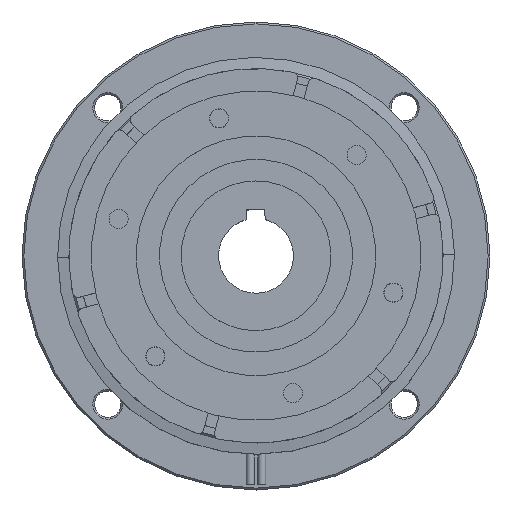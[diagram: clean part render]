
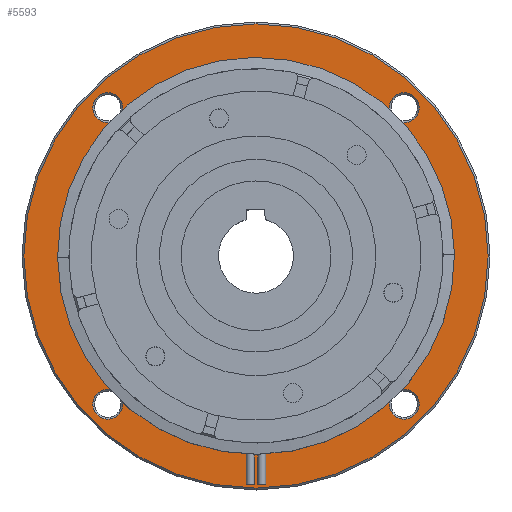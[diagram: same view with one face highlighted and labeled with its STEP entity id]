
A CAD part, top view. The second image highlights one B-rep face of the part: STEP entity #5593.
In plain terms, the highlighted planar face has unit normal (0, 0, 1).
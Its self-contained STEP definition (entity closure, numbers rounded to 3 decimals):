
#36 = VERTEX_POINT ( 'NONE', #1996 ) ;
#114 = FACE_BOUND ( 'NONE', #703, .T. ) ;
#181 = DIRECTION ( 'NONE',  ( 0., 0., -1. ) ) ;
#198 = ORIENTED_EDGE ( 'NONE', *, *, #4758, .T. ) ;
#323 = CARTESIAN_POINT ( 'NONE',  ( -39.598, -35.598, 3. ) ) ;
#590 = DIRECTION ( 'NONE',  ( 0., 0., -1. ) ) ;
#650 = CARTESIAN_POINT ( 'NONE',  ( 0., 0., 3. ) ) ;
#703 = EDGE_LOOP ( 'NONE', ( #6712, #7078 ) ) ;
#772 = AXIS2_PLACEMENT_3D ( 'NONE', #6168, #2530, #6754 ) ;
#837 = CARTESIAN_POINT ( 'NONE',  ( -39.598, 35.598, 3. ) ) ;
#942 = DIRECTION ( 'NONE',  ( 0., 0., -1. ) ) ;
#1023 = CARTESIAN_POINT ( 'NONE',  ( 62.5, 0., 3. ) ) ;
#1059 = DIRECTION ( 'NONE',  ( 0., 0., 1. ) ) ;
#1090 = EDGE_CURVE ( 'NONE', #7325, #5019, #3270, .T. ) ;
#1149 = VERTEX_POINT ( 'NONE', #4592 ) ;
#1166 = AXIS2_PLACEMENT_3D ( 'NONE', #3248, #7468, #3863 ) ;
#1169 = ORIENTED_EDGE ( 'NONE', *, *, #7689, .T. ) ;
#1210 = CARTESIAN_POINT ( 'NONE',  ( 0., -62., 3. ) ) ;
#1239 = DIRECTION ( 'NONE',  ( 0., -1., 0. ) ) ;
#1324 = AXIS2_PLACEMENT_3D ( 'NONE', #4151, #590, #4772 ) ;
#1521 = DIRECTION ( 'NONE',  ( 0., 0., -1. ) ) ;
#1536 = FACE_BOUND ( 'NONE', #2419, .T. ) ;
#1616 = DIRECTION ( 'NONE',  ( 0., 1., 0. ) ) ;
#1714 = FACE_BOUND ( 'NONE', #2570, .T. ) ;
#1873 = EDGE_CURVE ( 'NONE', #4246, #1149, #4411, .T. ) ;
#1996 = CARTESIAN_POINT ( 'NONE',  ( 39.598, 35.598, 3. ) ) ;
#2013 = CARTESIAN_POINT ( 'NONE',  ( 39.598, -39.598, 3. ) ) ;
#2045 = AXIS2_PLACEMENT_3D ( 'NONE', #650, #4813, #1239 ) ;
#2208 = CARTESIAN_POINT ( 'NONE',  ( 0., 50., 3. ) ) ;
#2330 = DIRECTION ( 'NONE',  ( 0., 0., -1. ) ) ;
#2396 = EDGE_CURVE ( 'NONE', #3891, #3667, #4290, .T. ) ;
#2419 = EDGE_LOOP ( 'NONE', ( #3387, #4372 ) ) ;
#2432 = CARTESIAN_POINT ( 'NONE',  ( -39.598, -43.598, 3. ) ) ;
#2476 = CIRCLE ( 'NONE', #1324, 4. ) ;
#2530 = DIRECTION ( 'NONE',  ( 0., 0., -1. ) ) ;
#2544 = AXIS2_PLACEMENT_3D ( 'NONE', #5106, #1521, #5707 ) ;
#2570 = EDGE_LOOP ( 'NONE', ( #198, #1169 ) ) ;
#2580 = DIRECTION ( 'NONE',  ( 0., 1., 0. ) ) ;
#2620 = CARTESIAN_POINT ( 'NONE',  ( -39.598, 39.598, 3. ) ) ;
#2712 = AXIS2_PLACEMENT_3D ( 'NONE', #2013, #6214, #2580 ) ;
#2750 = PLANE ( 'NONE',  #3452 ) ;
#2883 = CIRCLE ( 'NONE', #1166, 62. ) ;
#2985 = ORIENTED_EDGE ( 'NONE', *, *, #1873, .T. ) ;
#3090 = FACE_BOUND ( 'NONE', #6424, .T. ) ;
#3182 = VERTEX_POINT ( 'NONE', #323 ) ;
#3193 = VERTEX_POINT ( 'NONE', #3275 ) ;
#3230 = CIRCLE ( 'NONE', #4780, 4. ) ;
#3237 = DIRECTION ( 'NONE',  ( 0., 1., 0. ) ) ;
#3248 = CARTESIAN_POINT ( 'NONE',  ( 0., 0., 3. ) ) ;
#3270 = CIRCLE ( 'NONE', #4098, 50. ) ;
#3275 = CARTESIAN_POINT ( 'NONE',  ( 39.598, 43.598, 3. ) ) ;
#3387 = ORIENTED_EDGE ( 'NONE', *, *, #5107, .T. ) ;
#3452 = AXIS2_PLACEMENT_3D ( 'NONE', #1023, #5200, #1616 ) ;
#3543 = AXIS2_PLACEMENT_3D ( 'NONE', #4515, #942, #5117 ) ;
#3556 = DIRECTION ( 'NONE',  ( 0., 0., 1. ) ) ;
#3667 = VERTEX_POINT ( 'NONE', #837 ) ;
#3703 = CIRCLE ( 'NONE', #772, 4. ) ;
#3739 = CIRCLE ( 'NONE', #3543, 4. ) ;
#3749 = CARTESIAN_POINT ( 'NONE',  ( -39.598, -39.598, 3. ) ) ;
#3863 = DIRECTION ( 'NONE',  ( 0., 1., 0. ) ) ;
#3891 = VERTEX_POINT ( 'NONE', #4146 ) ;
#3915 = EDGE_CURVE ( 'NONE', #5019, #7325, #7479, .T. ) ;
#4041 = ORIENTED_EDGE ( 'NONE', *, *, #6219, .T. ) ;
#4098 = AXIS2_PLACEMENT_3D ( 'NONE', #5247, #1059, #4640 ) ;
#4146 = CARTESIAN_POINT ( 'NONE',  ( -39.598, 43.598, 3. ) ) ;
#4151 = CARTESIAN_POINT ( 'NONE',  ( -39.598, -39.598, 3. ) ) ;
#4246 = VERTEX_POINT ( 'NONE', #4366 ) ;
#4290 = CIRCLE ( 'NONE', #6964, 4. ) ;
#4349 = CIRCLE ( 'NONE', #5398, 62. ) ;
#4360 = DIRECTION ( 'NONE',  ( 0., 1., 0. ) ) ;
#4366 = CARTESIAN_POINT ( 'NONE',  ( 39.598, -43.598, 3. ) ) ;
#4372 = ORIENTED_EDGE ( 'NONE', *, *, #2396, .T. ) ;
#4411 = CIRCLE ( 'NONE', #2544, 4. ) ;
#4515 = CARTESIAN_POINT ( 'NONE',  ( 39.598, 39.598, 3. ) ) ;
#4580 = VERTEX_POINT ( 'NONE', #6520 ) ;
#4592 = CARTESIAN_POINT ( 'NONE',  ( 39.598, -35.598, 3. ) ) ;
#4640 = DIRECTION ( 'NONE',  ( 0., -1., 0. ) ) ;
#4721 = FACE_BOUND ( 'NONE', #5863, .T. ) ;
#4758 = EDGE_CURVE ( 'NONE', #36, #3193, #3703, .T. ) ;
#4772 = DIRECTION ( 'NONE',  ( 0., 1., 0. ) ) ;
#4780 = AXIS2_PLACEMENT_3D ( 'NONE', #3749, #181, #4360 ) ;
#4803 = EDGE_CURVE ( 'NONE', #1149, #4246, #6169, .T. ) ;
#4813 = DIRECTION ( 'NONE',  ( 0., 0., 1. ) ) ;
#5019 = VERTEX_POINT ( 'NONE', #2208 ) ;
#5106 = CARTESIAN_POINT ( 'NONE',  ( 39.598, -39.598, 3. ) ) ;
#5107 = EDGE_CURVE ( 'NONE', #3667, #3891, #5113, .T. ) ;
#5113 = CIRCLE ( 'NONE', #7259, 4. ) ;
#5117 = DIRECTION ( 'NONE',  ( 0., 1., 0. ) ) ;
#5174 = VERTEX_POINT ( 'NONE', #1210 ) ;
#5200 = DIRECTION ( 'NONE',  ( 0., 0., -1. ) ) ;
#5247 = CARTESIAN_POINT ( 'NONE',  ( 0., 0., 3. ) ) ;
#5387 = CARTESIAN_POINT ( 'NONE',  ( 0., -50., 3. ) ) ;
#5398 = AXIS2_PLACEMENT_3D ( 'NONE', #7166, #3556, #7763 ) ;
#5593 = ADVANCED_FACE ( 'NONE', ( #1714, #1536, #3090, #4721, #6315, #114 ), #2750, .F. ) ;
#5678 = EDGE_CURVE ( 'NONE', #6933, #3182, #2476, .T. ) ;
#5707 = DIRECTION ( 'NONE',  ( 0., 1., 0. ) ) ;
#5758 = EDGE_LOOP ( 'NONE', ( #7149, #4041 ) ) ;
#5863 = EDGE_LOOP ( 'NONE', ( #2985, #7712 ) ) ;
#5905 = EDGE_CURVE ( 'NONE', #3182, #6933, #3230, .T. ) ;
#5943 = CARTESIAN_POINT ( 'NONE',  ( -39.598, 39.598, 3. ) ) ;
#6168 = CARTESIAN_POINT ( 'NONE',  ( 39.598, 39.598, 3. ) ) ;
#6169 = CIRCLE ( 'NONE', #2712, 4. ) ;
#6214 = DIRECTION ( 'NONE',  ( 0., 0., -1. ) ) ;
#6219 = EDGE_CURVE ( 'NONE', #5174, #4580, #4349, .T. ) ;
#6315 = FACE_OUTER_BOUND ( 'NONE', #5758, .T. ) ;
#6424 = EDGE_LOOP ( 'NONE', ( #6907, #7269 ) ) ;
#6520 = CARTESIAN_POINT ( 'NONE',  ( 0., 62., 3. ) ) ;
#6534 = DIRECTION ( 'NONE',  ( 0., 1., 0. ) ) ;
#6712 = ORIENTED_EDGE ( 'NONE', *, *, #1090, .F. ) ;
#6754 = DIRECTION ( 'NONE',  ( 0., 1., 0. ) ) ;
#6863 = DIRECTION ( 'NONE',  ( 0., 0., -1. ) ) ;
#6907 = ORIENTED_EDGE ( 'NONE', *, *, #5678, .T. ) ;
#6933 = VERTEX_POINT ( 'NONE', #2432 ) ;
#6964 = AXIS2_PLACEMENT_3D ( 'NONE', #2620, #6863, #3237 ) ;
#7078 = ORIENTED_EDGE ( 'NONE', *, *, #3915, .F. ) ;
#7149 = ORIENTED_EDGE ( 'NONE', *, *, #7674, .T. ) ;
#7166 = CARTESIAN_POINT ( 'NONE',  ( 0., 0., 3. ) ) ;
#7259 = AXIS2_PLACEMENT_3D ( 'NONE', #5943, #2330, #6534 ) ;
#7269 = ORIENTED_EDGE ( 'NONE', *, *, #5905, .T. ) ;
#7325 = VERTEX_POINT ( 'NONE', #5387 ) ;
#7468 = DIRECTION ( 'NONE',  ( 0., 0., 1. ) ) ;
#7479 = CIRCLE ( 'NONE', #2045, 50. ) ;
#7674 = EDGE_CURVE ( 'NONE', #4580, #5174, #2883, .T. ) ;
#7689 = EDGE_CURVE ( 'NONE', #3193, #36, #3739, .T. ) ;
#7712 = ORIENTED_EDGE ( 'NONE', *, *, #4803, .T. ) ;
#7763 = DIRECTION ( 'NONE',  ( 0., 1., 0. ) ) ;
